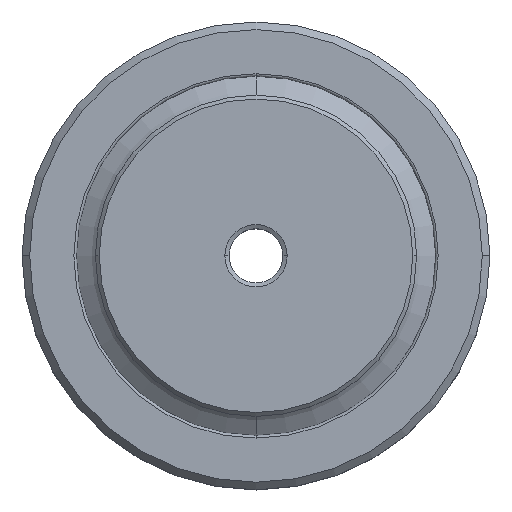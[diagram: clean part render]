
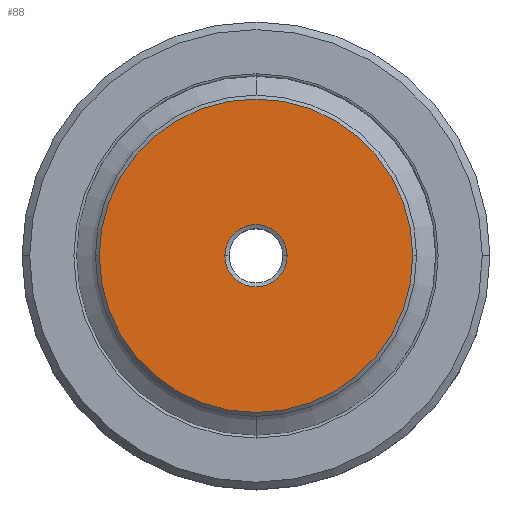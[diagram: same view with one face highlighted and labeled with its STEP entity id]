
A CAD part, top view. The second image highlights one B-rep face of the part: STEP entity #88.
In plain terms, the highlighted planar face has unit normal (0, 0, 1).
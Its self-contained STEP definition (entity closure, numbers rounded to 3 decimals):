
#88=ADVANCED_FACE('',(#187,#188),#189,.T.);
#187=FACE_OUTER_BOUND('',#309,.T.);
#188=FACE_BOUND('',#310,.T.);
#189=PLANE('',#311);
#309=EDGE_LOOP('',(#662,#663));
#310=EDGE_LOOP('',(#664,#665));
#311=AXIS2_PLACEMENT_3D('',#666,#667,#668);
#662=ORIENTED_EDGE('',*,*,#808,.F.);
#663=ORIENTED_EDGE('',*,*,#883,.F.);
#664=ORIENTED_EDGE('',*,*,#882,.T.);
#665=ORIENTED_EDGE('',*,*,#811,.T.);
#666=CARTESIAN_POINT('',(30.125,0.0,58.0));
#667=DIRECTION('',(0.0,0.,1.0));
#668=DIRECTION('',(-1.0,0.0,0.0));
#808=EDGE_CURVE('',#1068,#1070,#1071,.T.);
#811=EDGE_CURVE('',#1076,#1073,#1077,.T.);
#882=EDGE_CURVE('',#1073,#1076,#1189,.T.);
#883=EDGE_CURVE('',#1070,#1068,#1190,.T.);
#1068=VERTEX_POINT('',#1302);
#1070=VERTEX_POINT('',#1305);
#1071=CIRCLE('',#1306,50.25);
#1073=VERTEX_POINT('',#1309);
#1076=VERTEX_POINT('',#1313);
#1077=CIRCLE('',#1314,10.);
#1189=CIRCLE('',#1447,10.);
#1190=CIRCLE('',#1448,50.25);
#1302=CARTESIAN_POINT('',(50.25,0.0,58.0));
#1305=CARTESIAN_POINT('',(-50.25,0.,58.0));
#1306=AXIS2_PLACEMENT_3D('',#1610,#1611,#1612);
#1309=CARTESIAN_POINT('',(10.,0.0,58.0));
#1313=CARTESIAN_POINT('',(-10.,0.,58.0));
#1314=AXIS2_PLACEMENT_3D('',#1615,#1616,#1617);
#1447=AXIS2_PLACEMENT_3D('',#1786,#1787,#1788);
#1448=AXIS2_PLACEMENT_3D('',#1789,#1790,#1791);
#1610=CARTESIAN_POINT('',(0.0,0.0,58.0));
#1611=DIRECTION('',(0.0,0.,-1.0));
#1612=DIRECTION('',(1.0,0.0,0.0));
#1615=CARTESIAN_POINT('',(0.0,0.0,58.0));
#1616=DIRECTION('',(0.0,0.,-1.0));
#1617=DIRECTION('',(1.0,0.0,0.0));
#1786=CARTESIAN_POINT('',(0.0,0.0,58.0));
#1787=DIRECTION('',(0.0,0.,-1.0));
#1788=DIRECTION('',(1.0,0.0,0.0));
#1789=CARTESIAN_POINT('',(0.0,0.0,58.0));
#1790=DIRECTION('',(0.0,0.,-1.0));
#1791=DIRECTION('',(1.0,0.0,0.0));
